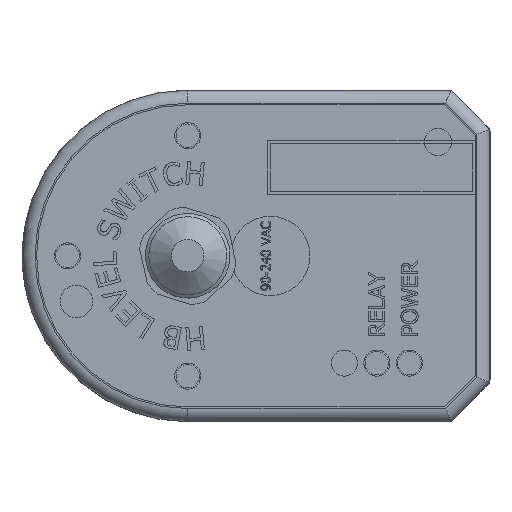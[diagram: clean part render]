
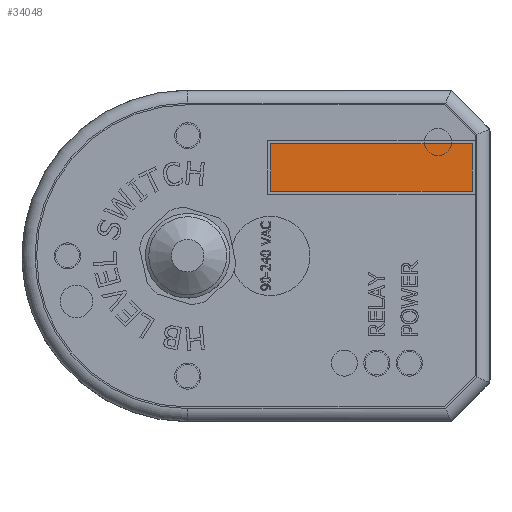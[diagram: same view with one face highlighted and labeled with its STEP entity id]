
A CAD part, top view. The second image highlights one B-rep face of the part: STEP entity #34048.
In plain terms, the highlighted planar face has unit normal (0, 0, 1).
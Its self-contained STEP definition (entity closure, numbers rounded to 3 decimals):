
#34009=CARTESIAN_POINT('',(28.25,13.6,25.064));
#34010=DIRECTION('',(0.,0.,1.0));
#34011=DIRECTION('',(0.,1.0,0.));
#34012=AXIS2_PLACEMENT_3D('',#34009,#34010,#34011);
#34013=PLANE('',#34012);
#34014=CARTESIAN_POINT('',(43.75,17.25,25.064));
#34015=VERTEX_POINT('',#34014);
#34016=CARTESIAN_POINT('',(43.75,9.95,25.064));
#34017=VERTEX_POINT('',#34016);
#34018=CARTESIAN_POINT('',(43.75,17.25,25.064));
#34019=DIRECTION('',(0.0,-1.0,0.));
#34020=VECTOR('',#34019,7.3);
#34021=LINE('',#34018,#34020);
#34022=EDGE_CURVE('',#34015,#34017,#34021,.T.);
#34023=ORIENTED_EDGE('',*,*,#34022,.F.);
#34024=CARTESIAN_POINT('',(12.75,17.25,25.064));
#34025=VERTEX_POINT('',#34024);
#34026=CARTESIAN_POINT('',(12.75,17.25,25.064));
#34027=DIRECTION('',(1.0,0.,0.));
#34028=VECTOR('',#34027,31.);
#34029=LINE('',#34026,#34028);
#34030=EDGE_CURVE('',#34025,#34015,#34029,.T.);
#34031=ORIENTED_EDGE('',*,*,#34030,.F.);
#34032=CARTESIAN_POINT('',(12.75,9.95,25.064));
#34033=VERTEX_POINT('',#34032);
#34034=CARTESIAN_POINT('',(12.75,9.95,25.064));
#34035=DIRECTION('',(0.0,1.0,0.));
#34036=VECTOR('',#34035,7.3);
#34037=LINE('',#34034,#34036);
#34038=EDGE_CURVE('',#34033,#34025,#34037,.T.);
#34039=ORIENTED_EDGE('',*,*,#34038,.F.);
#34040=CARTESIAN_POINT('',(43.75,9.95,25.064));
#34041=DIRECTION('',(-1.0,0.,0.));
#34042=VECTOR('',#34041,31.);
#34043=LINE('',#34040,#34042);
#34044=EDGE_CURVE('',#34017,#34033,#34043,.T.);
#34045=ORIENTED_EDGE('',*,*,#34044,.F.);
#34046=EDGE_LOOP('',(#34023,#34031,#34039,#34045));
#34047=FACE_OUTER_BOUND('',#34046,.T.);
#34048=ADVANCED_FACE('',(#34047),#34013,.T.);
